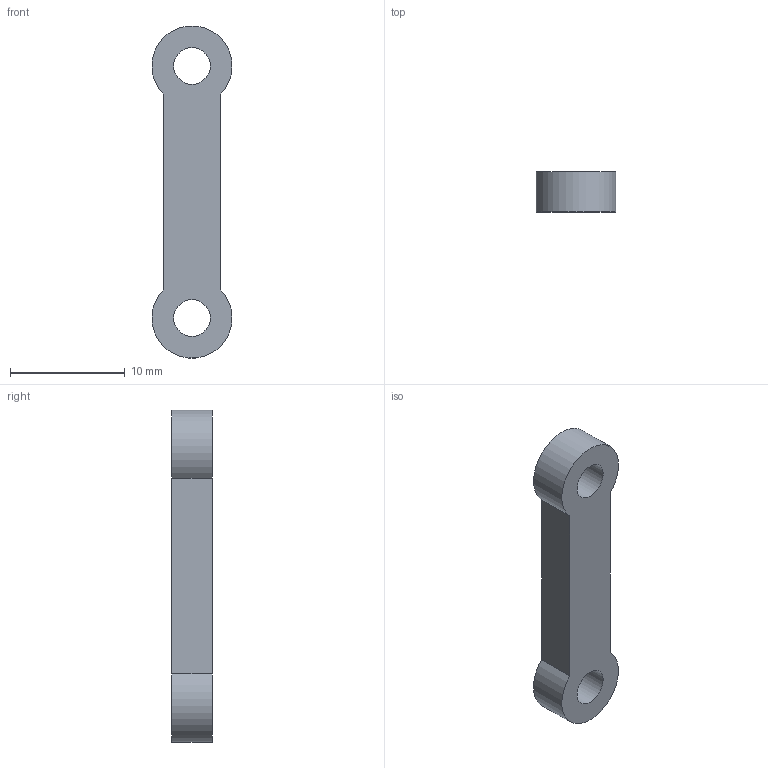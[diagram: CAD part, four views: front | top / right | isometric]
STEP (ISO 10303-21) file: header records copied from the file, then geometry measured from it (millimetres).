
FILE_DESCRIPTION(('Open CASCADE Model'),'2;1');
FILE_NAME('Open CASCADE Shape Model','2026-10-15T18:27:22',('Author'),( 'Open CASCADE'),'Open CASCADE STEP processor 7.9','Open CASCADE 7.9' ,'Unknown');
FILE_SCHEMA(('AUTOMOTIVE_DESIGN { 1 0 10303 214 1 1 1 1 }'));
Length unit declared in the file: millimetre
Products named in the file (1): Open CASCADE STEP translator 7.9 21
Bounding box: 6.98 x 3.5 x 28.97 mm (x, y, z)
Volume: 487 mm3; surface area: 583.3 mm2
Topology: 1 solids, 1 shells, 8 faces, 18 edges, 12 vertices
Faces by surface type: cylinder 4, plane 4
Full cylindrical faces by diameter (mm): 3.2 x2
Entity records: 492 total; most frequent: CARTESIAN_POINT 119, DIRECTION 66, ORIENTED_EDGE 36, PCURVE 36, DEFINITIONAL_REPRESENTATION 36, LINE 30, VECTOR 30, EDGE_CURVE 18
